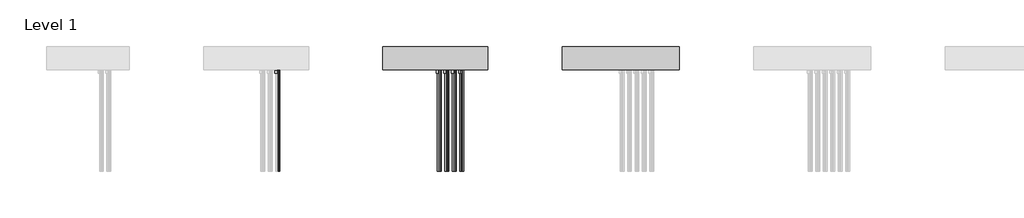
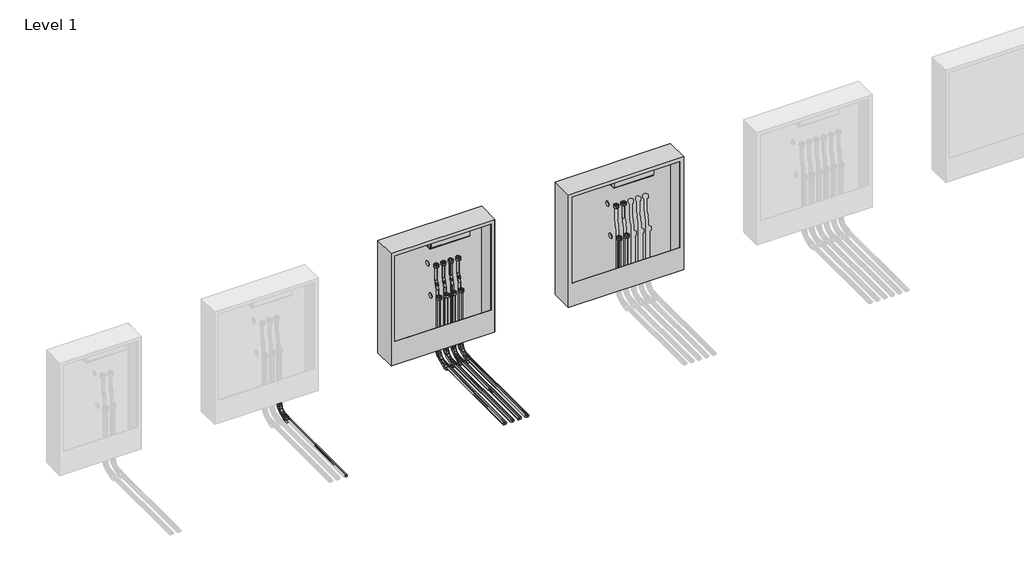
# One storey, part 2 of 15: 40 pipe fittings, 32 pipe segments, 2 proxies, 2 valves.
"""IFC4 building model written with IfcOpenShell, lengths in millimetres."""

from ifc_helpers import new_model, si_unit, point, frame, frame_2d, origin, place, context, project, spatial, circle_curve, trimmed, segment, composite_curve, outline, extrude, transform, mapped, element, save
from components import mechanical_equipment_387b3563, pipe_fitting_b05a7e06, pipe_fitting_27357a6d, pipe_fitting_3e503640, pipe_fitting_daada113, valve_14c71488, valve_a98dd44e

model = new_model("IFC4")

# Units and contexts
model_context = context("Model", 3, world=origin())
ifc_project = project(units=[si_unit("LENGTHUNIT", "METRE", prefix="MILLI")], contexts=[model_context])

# Site, building, storey
site = spatial("IfcSite", under=ifc_project)
building = spatial("IfcBuilding", under=site)
storey = spatial("IfcBuildingStorey", under=building, Name="Level 1", Elevation=0.0)

# Proxies
placement = place(None, origin())
mechanical_equipment_shape = mechanical_equipment_387b3563(model_context)
element("IfcBuildingElementProxy", 1, Name="USYSTEMS_Контроллер UH-6 230В1 : Контроллер UH-6 230В 2", ObjectType="USYSTEMS_Контроллер UH-6 230В1 : Контроллер UH-6 230В 2", at=placement, inside=storey, context=model_context, shape_type="MappedRepresentation", body=[
    mapped(mechanical_equipment_shape, transform((4936.3622855, 3891.9849843, 729.375), x_axis=(1.0, 0.0, 0.0), y_axis=(0.0, 1.0, 0.0), z_axis=(0.0, 0.0, 1.0))),
])
element("IfcBuildingElementProxy", 2, Name="USYSTEMS_Контроллер UH-6 230В1 : Контроллер UH-6 230В 2", ObjectType="USYSTEMS_Контроллер UH-6 230В1 : Контроллер UH-6 230В 2", at=placement, inside=storey, context=model_context, shape_type="MappedRepresentation", body=[
    mapped(mechanical_equipment_shape, transform((6187.3126825, 3892.1486199, 729.375), x_axis=(1.0, 0.0, 0.0), y_axis=(0.0, 1.0, 0.0), z_axis=(0.0, 0.0, 1.0))),
])

# Pipe fittings
pipe_fitting_shape = pipe_fitting_b05a7e06(model_context)
element("IfcPipeFitting", 3, ObjectType="USYSTEMS_УгловойФиксатор_Multi : Угловой фиксатор", at=placement, inside=storey, context=model_context, shape_type="MappedRepresentation", body=[
    mapped(pipe_fitting_shape, transform((3768.5620456, 3819.7252157, -114.3211479), x_axis=(0.0, 0.0, -1.0), y_axis=(0.0, -1.0, 0.0), z_axis=(-1.0, 0.0, 0.0))),
])
element("IfcPipeFitting", 4, ObjectType="USYSTEMS_УгловойФиксатор_Multi : Угловой фиксатор", at=placement, inside=storey, context=model_context, shape_type="MappedRepresentation", body=[
    mapped(pipe_fitting_shape, transform((3778.6478021, 3855.7252157, -114.3211479), x_axis=(0.0, 0.0, -1.0), y_axis=(0.0, -1.0, 0.0), z_axis=(-1.0, 0.0, 0.0))),
])
element("IfcPipeFitting", 5, ObjectType="USYSTEMS_УгловойФиксатор_Multi : Угловой фиксатор", at=placement, inside=storey, context=model_context, shape_type="MappedRepresentation", body=[
    mapped(pipe_fitting_shape, transform((4852.9678224, 3820.0478064, -114.3211479), x_axis=(0.0, 0.0, -1.0), y_axis=(0.0, -1.0, 0.0), z_axis=(-1.0, 0.0, 0.0))),
])
element("IfcPipeFitting", 6, ObjectType="USYSTEMS_УгловойФиксатор_Multi : Угловой фиксатор", at=placement, inside=storey, context=model_context, shape_type="MappedRepresentation", body=[
    mapped(pipe_fitting_shape, transform((4902.9678224, 3820.0478064, -114.3211479), x_axis=(0.0, 0.0, -1.0), y_axis=(0.0, -1.0, 0.0), z_axis=(-1.0, 0.0, 0.0))),
])
element("IfcPipeFitting", 7, ObjectType="USYSTEMS_УгловойФиксатор_Multi : Угловой фиксатор", at=placement, inside=storey, context=model_context, shape_type="MappedRepresentation", body=[
    mapped(pipe_fitting_shape, transform((4863.0535788, 3856.0474843, -114.3211479), x_axis=(0.0, 0.0, -1.0), y_axis=(0.0, -1.0, 0.0), z_axis=(-1.0, 0.0, 0.0))),
])
element("IfcPipeFitting", 8, ObjectType="USYSTEMS_УгловойФиксатор_Multi : Угловой фиксатор", at=placement, inside=storey, context=model_context, shape_type="MappedRepresentation", body=[
    mapped(pipe_fitting_shape, transform((4913.0535788, 3856.0474843, -114.3211479), x_axis=(0.0, 0.0, -1.0), y_axis=(0.0, -1.0, 0.0), z_axis=(-1.0, 0.0, 0.0))),
])
element("IfcPipeFitting", 9, ObjectType="USYSTEMS_УгловойФиксатор_Multi : Угловой фиксатор", at=placement, inside=storey, context=model_context, shape_type="MappedRepresentation", body=[
    mapped(pipe_fitting_shape, transform((4952.9678224, 3820.0478064, -114.3211479), x_axis=(0.0, 0.0, -1.0), y_axis=(0.0, -1.0, 0.0), z_axis=(-1.0, 0.0, 0.0))),
])
element("IfcPipeFitting", 10, ObjectType="USYSTEMS_УгловойФиксатор_Multi : Угловой фиксатор", at=placement, inside=storey, context=model_context, shape_type="MappedRepresentation", body=[
    mapped(pipe_fitting_shape, transform((5002.9678224, 3820.0477843, -114.3211479), x_axis=(0.0, 0.0, -1.0), y_axis=(0.0, -1.0, 0.0), z_axis=(-1.0, 0.0, 0.0))),
])
element("IfcPipeFitting", 11, ObjectType="USYSTEMS_УгловойФиксатор_Multi : Угловой фиксатор", at=placement, inside=storey, context=model_context, shape_type="MappedRepresentation", body=[
    mapped(pipe_fitting_shape, transform((4963.0535788, 3856.0474843, -114.3211479), x_axis=(0.0, 0.0, -1.0), y_axis=(0.0, -1.0, 0.0), z_axis=(-1.0, 0.0, 0.0))),
])
element("IfcPipeFitting", 12, ObjectType="USYSTEMS_УгловойФиксатор_Multi : Угловой фиксатор", at=placement, inside=storey, context=model_context, shape_type="MappedRepresentation", body=[
    mapped(pipe_fitting_shape, transform((5013.0535788, 3856.0478064, -114.3211479), x_axis=(0.0, 0.0, -1.0), y_axis=(0.0, -1.0, 0.0), z_axis=(-1.0, 0.0, 0.0))),
])
pipe_fitting_2_shape = pipe_fitting_27357a6d(model_context)
element("IfcPipeFitting", 13, ObjectType="USYSTEMS_Штуцер с внутренней резьбой_FlexX_PEX : 16x2,0 x 3/4\" ВР Евроконус", at=placement, inside=storey, context=model_context, shape_type="MappedRepresentation", body=[
    mapped(pipe_fitting_2_shape, transform((4902.9678224, 3856.0479445, 538.3084133), x_axis=(0.0, 0.0, 1.0), y_axis=(0.0, 1.0, 0.0), z_axis=(-1.0, 0.0, 0.0))),
])
element("IfcPipeFitting", 14, ObjectType="USYSTEMS_Штуцер с внутренней резьбой_FlexX_PEX : 16x2,0 x 3/4\" ВР Евроконус", at=placement, inside=storey, context=model_context, shape_type="MappedRepresentation", body=[
    mapped(pipe_fitting_2_shape, transform((4902.9678224, 3820.0479445, 328.3084133), x_axis=(0.0, 0.0, 1.0), y_axis=(0.0, 1.0, 0.0), z_axis=(-1.0, 0.0, 0.0))),
])
element("IfcPipeFitting", 15, ObjectType="USYSTEMS_Штуцер с внутренней резьбой_FlexX_PEX : 16x2,0 x 3/4\" ВР Евроконус", at=placement, inside=storey, context=model_context, shape_type="MappedRepresentation", body=[
    mapped(pipe_fitting_2_shape, transform((4852.9678224, 3820.0479445, 328.3084133), x_axis=(0.0, 0.0, 1.0), y_axis=(0.0, 1.0, 0.0), z_axis=(-1.0, 0.0, 0.0))),
])
element("IfcPipeFitting", 16, ObjectType="USYSTEMS_Штуцер с внутренней резьбой_FlexX_PEX : 16x2,0 x 3/4\" ВР Евроконус", at=placement, inside=storey, context=model_context, shape_type="MappedRepresentation", body=[
    mapped(pipe_fitting_2_shape, transform((4852.9678224, 3856.0479445, 538.3084133), x_axis=(0.0, 0.0, 1.0), y_axis=(0.0, 1.0, 0.0), z_axis=(-1.0, 0.0, 0.0))),
])
element("IfcPipeFitting", 17, ObjectType="USYSTEMS_Штуцер с внутренней резьбой_FlexX_PEX : 16x2,0 x 3/4\" ВР Евроконус", at=placement, inside=storey, context=model_context, shape_type="MappedRepresentation", body=[
    mapped(pipe_fitting_2_shape, transform((5002.9678224, 3856.0479445, 538.3084133), x_axis=(0.0, 0.0, 1.0), y_axis=(0.0, 1.0, 0.0), z_axis=(-1.0, 0.0, 0.0))),
])
element("IfcPipeFitting", 18, ObjectType="USYSTEMS_Штуцер с внутренней резьбой_FlexX_PEX : 16x2,0 x 3/4\" ВР Евроконус", at=placement, inside=storey, context=model_context, shape_type="MappedRepresentation", body=[
    mapped(pipe_fitting_2_shape, transform((5002.9678224, 3820.0479445, 328.3084133), x_axis=(0.0, 0.0, 1.0), y_axis=(0.0, 1.0, 0.0), z_axis=(-1.0, 0.0, 0.0))),
])
element("IfcPipeFitting", 19, ObjectType="USYSTEMS_Штуцер с внутренней резьбой_FlexX_PEX : 16x2,0 x 3/4\" ВР Евроконус", at=placement, inside=storey, context=model_context, shape_type="MappedRepresentation", body=[
    mapped(pipe_fitting_2_shape, transform((4952.9678224, 3820.0479445, 328.3084133), x_axis=(0.0, 0.0, 1.0), y_axis=(0.0, 1.0, 0.0), z_axis=(-1.0, 0.0, 0.0))),
])
element("IfcPipeFitting", 20, ObjectType="USYSTEMS_Штуцер с внутренней резьбой_FlexX_PEX : 16x2,0 x 3/4\" ВР Евроконус", at=placement, inside=storey, context=model_context, shape_type="MappedRepresentation", body=[
    mapped(pipe_fitting_2_shape, transform((4952.9678224, 3856.0479445, 538.3084133), x_axis=(0.0, 0.0, 1.0), y_axis=(0.0, 1.0, 0.0), z_axis=(-1.0, 0.0, 0.0))),
])
element("IfcPipeFitting", 21, ObjectType="USYSTEMS_Штуцер с внутренней резьбой_FlexX_PEX : 16x2,0 x 3/4\" ВР Евроконус", at=placement, inside=storey, context=model_context, shape_type="MappedRepresentation", body=[
    mapped(pipe_fitting_2_shape, transform((6128.9182194, 3856.21158, 538.3084133), x_axis=(0.0, 0.0, 1.0), y_axis=(0.0, 1.0, 0.0), z_axis=(-1.0, 0.0, 0.0))),
])
element("IfcPipeFitting", 22, ObjectType="USYSTEMS_Штуцер с внутренней резьбой_FlexX_PEX : 16x2,0 x 3/4\" ВР Евроконус", at=placement, inside=storey, context=model_context, shape_type="MappedRepresentation", body=[
    mapped(pipe_fitting_2_shape, transform((6128.9182194, 3820.21158, 328.3084133), x_axis=(0.0, 0.0, 1.0), y_axis=(0.0, 1.0, 0.0), z_axis=(-1.0, 0.0, 0.0))),
])
element("IfcPipeFitting", 23, ObjectType="USYSTEMS_Штуцер с внутренней резьбой_FlexX_PEX : 16x2,0 x 3/4\" ВР Евроконус", at=placement, inside=storey, context=model_context, shape_type="MappedRepresentation", body=[
    mapped(pipe_fitting_2_shape, transform((6078.9182194, 3820.21158, 328.3084133), x_axis=(0.0, 0.0, 1.0), y_axis=(0.0, 1.0, 0.0), z_axis=(-1.0, 0.0, 0.0))),
])
element("IfcPipeFitting", 24, ObjectType="USYSTEMS_Штуцер с внутренней резьбой_FlexX_PEX : 16x2,0 x 3/4\" ВР Евроконус", at=placement, inside=storey, context=model_context, shape_type="MappedRepresentation", body=[
    mapped(pipe_fitting_2_shape, transform((6078.9182194, 3856.21158, 538.3084133), x_axis=(0.0, 0.0, 1.0), y_axis=(0.0, 1.0, 0.0), z_axis=(-1.0, 0.0, 0.0))),
])
pipe_fitting_3_shape = pipe_fitting_3e503640(model_context)
element("IfcPipeFitting", 25, ObjectType="USYSTEMS_Гнутая труба_Radi Pipe : PN 6 в бухтах_С фиксатором", at=placement, inside=storey, context=model_context, shape_type="MappedRepresentation", body=[
    mapped(pipe_fitting_3_shape, transform((3768.5620456, 3819.7252157, -114.3211479), x_axis=(0.0, 0.0, -1.0), y_axis=(0.0, -1.0, 0.0), z_axis=(-1.0, 0.0, 0.0))),
])
element("IfcPipeFitting", 26, ObjectType="USYSTEMS_Гнутая труба_Radi Pipe : PN 6 в бухтах_С фиксатором", at=placement, inside=storey, context=model_context, shape_type="MappedRepresentation", body=[
    mapped(pipe_fitting_3_shape, transform((3778.6478021, 3855.7252157, -114.3211479), x_axis=(0.0, 0.0, -1.0), y_axis=(0.0, -1.0, 0.0), z_axis=(-1.0, 0.0, 0.0))),
])
pipe_fitting_4_shape = pipe_fitting_daada113(model_context)
element("IfcPipeFitting", 27, ObjectType="USYSTEMS_Гнутая труба_Radi Pipe : PN 6 в бухтах", at=placement, inside=storey, context=model_context, shape_type="MappedRepresentation", body=[
    mapped(pipe_fitting_4_shape, transform((4852.9678224, 3856.0471845, 414.5388211), x_axis=(0.0, 0.0, -1.0), y_axis=(1.0, 0.0, 0.0), z_axis=(0.0, -1.0, 0.0))),
])
element("IfcPipeFitting", 28, ObjectType="USYSTEMS_Гнутая труба_Radi Pipe : PN 6 в бухтах", at=placement, inside=storey, context=model_context, shape_type="MappedRepresentation", body=[
    mapped(pipe_fitting_4_shape, transform((4863.0535788, 3856.0474843, 388.2645272), x_axis=(0.3583679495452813, 0.0, -0.9335804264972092), y_axis=(-0.9335804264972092, 0.0, -0.3583679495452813), z_axis=(0.0, 1.0, 0.0))),
])
element("IfcPipeFitting", 29, ObjectType="USYSTEMS_Гнутая труба_Radi Pipe : PN 6 в бухтах", at=placement, inside=storey, context=model_context, shape_type="MappedRepresentation", body=[
    mapped(pipe_fitting_4_shape, transform((4902.9678224, 3856.0471846, 414.5122189), x_axis=(0.0, 0.0, -1.0), y_axis=(1.0, 0.0, 0.0), z_axis=(0.0, -1.0, 0.0))),
])
element("IfcPipeFitting", 30, ObjectType="USYSTEMS_Гнутая труба_Radi Pipe : PN 6 в бухтах", at=placement, inside=storey, context=model_context, shape_type="MappedRepresentation", body=[
    mapped(pipe_fitting_4_shape, transform((4913.0535788, 3856.0474843, 388.237925), x_axis=(0.3583679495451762, 0.0, -0.9335804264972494), y_axis=(-0.9335804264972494, 0.0, -0.3583679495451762), z_axis=(0.0, 1.0, 0.0))),
])
element("IfcPipeFitting", 31, ObjectType="USYSTEMS_Гнутая труба_Radi Pipe : PN 6 в бухтах", at=placement, inside=storey, context=model_context, shape_type="MappedRepresentation", body=[
    mapped(pipe_fitting_4_shape, transform((4952.9678224, 3856.0471845, 414.5388211), x_axis=(0.0, 0.0, -1.0), y_axis=(1.0, 0.0, 0.0), z_axis=(0.0, -1.0, 0.0))),
])
element("IfcPipeFitting", 32, ObjectType="USYSTEMS_Гнутая труба_Radi Pipe : PN 6 в бухтах", at=placement, inside=storey, context=model_context, shape_type="MappedRepresentation", body=[
    mapped(pipe_fitting_4_shape, transform((4963.0535788, 3856.0474843, 388.2645272), x_axis=(0.3583679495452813, 0.0, -0.9335804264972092), y_axis=(-0.9335804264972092, 0.0, -0.3583679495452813), z_axis=(0.0, 1.0, 0.0))),
])
element("IfcPipeFitting", 33, ObjectType="USYSTEMS_Гнутая труба_Radi Pipe : PN 6 в бухтах", at=placement, inside=storey, context=model_context, shape_type="MappedRepresentation", body=[
    mapped(pipe_fitting_4_shape, transform((5002.9678224, 3856.0477165, 414.5122189), x_axis=(0.0, 0.0, -1.0), y_axis=(1.0, 0.0, 0.0), z_axis=(0.0, -1.0, 0.0))),
])
element("IfcPipeFitting", 34, ObjectType="USYSTEMS_Гнутая труба_Radi Pipe : PN 6 в бухтах", at=placement, inside=storey, context=model_context, shape_type="MappedRepresentation", body=[
    mapped(pipe_fitting_4_shape, transform((5013.0535788, 3856.0478064, 388.237925), x_axis=(0.3583679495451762, 0.0, -0.9335804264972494), y_axis=(-0.9335804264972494, 0.0, -0.3583679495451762), z_axis=(0.0, 1.0, 0.0))),
])
element("IfcPipeFitting", 35, ObjectType="USYSTEMS_Гнутая труба_Radi Pipe : PN 6 в бухтах_С фиксатором", at=placement, inside=storey, context=model_context, shape_type="MappedRepresentation", body=[
    mapped(pipe_fitting_3_shape, transform((4852.9678224, 3820.0478064, -114.3211479), x_axis=(0.0, 0.0, -1.0), y_axis=(0.0, -1.0, 0.0), z_axis=(-1.0, 0.0, 0.0))),
])
element("IfcPipeFitting", 36, ObjectType="USYSTEMS_Гнутая труба_Radi Pipe : PN 6 в бухтах_С фиксатором", at=placement, inside=storey, context=model_context, shape_type="MappedRepresentation", body=[
    mapped(pipe_fitting_3_shape, transform((4902.9678224, 3820.0478064, -114.3211479), x_axis=(0.0, 0.0, -1.0), y_axis=(0.0, -1.0, 0.0), z_axis=(-1.0, 0.0, 0.0))),
])
element("IfcPipeFitting", 37, ObjectType="USYSTEMS_Гнутая труба_Radi Pipe : PN 6 в бухтах_С фиксатором", at=placement, inside=storey, context=model_context, shape_type="MappedRepresentation", body=[
    mapped(pipe_fitting_3_shape, transform((4863.0535788, 3856.0474843, -114.3211479), x_axis=(0.0, 0.0, -1.0), y_axis=(0.0, -1.0, 0.0), z_axis=(-1.0, 0.0, 0.0))),
])
element("IfcPipeFitting", 38, ObjectType="USYSTEMS_Гнутая труба_Radi Pipe : PN 6 в бухтах_С фиксатором", at=placement, inside=storey, context=model_context, shape_type="MappedRepresentation", body=[
    mapped(pipe_fitting_3_shape, transform((4913.0535788, 3856.0474843, -114.3211479), x_axis=(0.0, 0.0, -1.0), y_axis=(0.0, -1.0, 0.0), z_axis=(-1.0, 0.0, 0.0))),
])
element("IfcPipeFitting", 39, ObjectType="USYSTEMS_Гнутая труба_Radi Pipe : PN 6 в бухтах_С фиксатором", at=placement, inside=storey, context=model_context, shape_type="MappedRepresentation", body=[
    mapped(pipe_fitting_3_shape, transform((4952.9678224, 3820.0478064, -114.3211479), x_axis=(0.0, 0.0, -1.0), y_axis=(0.0, -1.0, 0.0), z_axis=(-1.0, 0.0, 0.0))),
])
element("IfcPipeFitting", 40, ObjectType="USYSTEMS_Гнутая труба_Radi Pipe : PN 6 в бухтах_С фиксатором", at=placement, inside=storey, context=model_context, shape_type="MappedRepresentation", body=[
    mapped(pipe_fitting_3_shape, transform((5002.9678224, 3820.0477843, -114.3211479), x_axis=(0.0, 0.0, -1.0), y_axis=(0.0, -1.0, 0.0), z_axis=(-1.0, 0.0, 0.0))),
])
element("IfcPipeFitting", 41, ObjectType="USYSTEMS_Гнутая труба_Radi Pipe : PN 6 в бухтах_С фиксатором", at=placement, inside=storey, context=model_context, shape_type="MappedRepresentation", body=[
    mapped(pipe_fitting_3_shape, transform((4963.0535788, 3856.0474843, -114.3211479), x_axis=(0.0, 0.0, -1.0), y_axis=(0.0, -1.0, 0.0), z_axis=(-1.0, 0.0, 0.0))),
])
element("IfcPipeFitting", 42, ObjectType="USYSTEMS_Гнутая труба_Radi Pipe : PN 6 в бухтах_С фиксатором", at=placement, inside=storey, context=model_context, shape_type="MappedRepresentation", body=[
    mapped(pipe_fitting_3_shape, transform((5013.0535788, 3856.0478064, -114.3211479), x_axis=(0.0, 0.0, -1.0), y_axis=(0.0, -1.0, 0.0), z_axis=(-1.0, 0.0, 0.0))),
])

# Pipe segments
element("IfcPipeSegment", 43, ObjectType="USYSTEMS труба Radi Pipe белая PN6", at=placement, inside=storey, context=model_context, shape_type="SweptSolid", body=[
    extrude(outline(composite_curve([segment(trimmed(circle_curve(frame_2d((-114.3211479, 3778.6478021)), 8.0), [point((-114.3211479, 3770.6478021))], [point((-122.3211479, 3778.6478021))], False, "CARTESIAN"), True, "CONTINUOUS"), segment(trimmed(circle_curve(frame_2d((-114.3211479, 3778.6478021)), 8.0), [point((-122.3211479, 3778.6478021))], [point((-114.3211479, 3786.6478021))], False, "CARTESIAN"), True, "CONTINUOUS"), segment(trimmed(circle_curve(frame_2d((-114.3211479, 3778.6478021)), 8.0), [point((-114.3211479, 3786.6478021))], [point((-106.3211479, 3778.6478021))], False, "CARTESIAN"), True, "CONTINUOUS"), segment(trimmed(circle_curve(frame_2d((-114.3211479, 3778.6478021)), 8.0), [point((-106.3211479, 3778.6478021))], [point((-114.3211479, 3770.6478021))], False, "CARTESIAN"), True, "CONTINUOUS")], self_intersect=False)), frame((0.0, 3054.7207207, 0.0), z_axis=(0.0, 1.0, 0.0), x_axis=(0.0, 0.0, 1.0)), (0.0, 0.0, 1.0), 730.004495),
])
element("IfcPipeSegment", 44, ObjectType="USYSTEMS труба Radi Pipe белая PN6", at=placement, inside=storey, context=model_context, shape_type="SweptSolid", body=[
    extrude(outline(composite_curve([segment(trimmed(circle_curve(frame_2d((0.0, -8.0)), 8.0), [point((-8.0, -8.0))], [point((0.0, 0.0))], False, "CARTESIAN"), True, "CONTINUOUS"), segment(trimmed(circle_curve(frame_2d((0.0, -8.0)), 8.0), [point((0.0, 0.0))], [point((8.0, -8.0))], False, "CARTESIAN"), True, "CONTINUOUS"), segment(trimmed(circle_curve(frame_2d((0.0, -8.0)), 8.0), [point((8.0, -8.0))], [point((0.0, -16.0))], False, "CARTESIAN"), True, "CONTINUOUS"), segment(trimmed(circle_curve(frame_2d((0.0, -8.0)), 8.0), [point((0.0, -16.0))], [point((-8.0, -8.0))], False, "CARTESIAN"), True, "CONTINUOUS")], self_intersect=False)), frame((4852.9678224, 3812.0478064, -43.3211449), z_axis=(0.0, 3.7245021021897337e-07, 0.9999999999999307), x_axis=(-1.0, 0.0, 0.0)), (0.0, 0.0, 1.0), 370.6295612),
])
element("IfcPipeSegment", 45, ObjectType="USYSTEMS труба Radi Pipe белая PN6", at=placement, inside=storey, context=model_context, shape_type="SweptSolid", body=[
    extrude(outline(composite_curve([segment(trimmed(circle_curve(frame_2d((0.0, -8.0)), 8.0), [point((-8.0, -8.0))], [point((0.0, 0.0))], False, "CARTESIAN"), True, "CONTINUOUS"), segment(trimmed(circle_curve(frame_2d((0.0, -8.0)), 8.0), [point((0.0, 0.0))], [point((8.0, -8.0))], False, "CARTESIAN"), True, "CONTINUOUS"), segment(trimmed(circle_curve(frame_2d((0.0, -8.0)), 8.0), [point((8.0, -8.0))], [point((0.0, -16.0))], False, "CARTESIAN"), True, "CONTINUOUS"), segment(trimmed(circle_curve(frame_2d((0.0, -8.0)), 8.0), [point((0.0, -16.0))], [point((-8.0, -8.0))], False, "CARTESIAN"), True, "CONTINUOUS")], self_intersect=False)), frame((4902.9678224, 3812.0478064, -43.3211449), z_axis=(0.0, 3.7245021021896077e-07, 0.9999999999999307), x_axis=(-1.0, 0.0, 0.0)), (0.0, 0.0, 1.0), 370.6295612),
])
element("IfcPipeSegment", 46, ObjectType="USYSTEMS труба Radi Pipe белая PN6", at=placement, inside=storey, context=model_context, shape_type="SweptSolid", body=[
    extrude(outline(composite_curve([segment(trimmed(circle_curve(frame_2d((0.0, -8.0)), 8.0), [point((-8.0, -8.0))], [point((0.0, 0.0))], False, "CARTESIAN"), True, "CONTINUOUS"), segment(trimmed(circle_curve(frame_2d((0.0, -8.0)), 8.0), [point((0.0, 0.0))], [point((8.0, -8.0))], False, "CARTESIAN"), True, "CONTINUOUS"), segment(trimmed(circle_curve(frame_2d((0.0, -8.0)), 8.0), [point((8.0, -8.0))], [point((0.0, -16.0))], False, "CARTESIAN"), True, "CONTINUOUS"), segment(trimmed(circle_curve(frame_2d((0.0, -8.0)), 8.0), [point((0.0, -16.0))], [point((-8.0, -8.0))], False, "CARTESIAN"), True, "CONTINUOUS")], self_intersect=False)), frame((4902.9678224, 3848.0471846, 438.235678), z_axis=(0.0, 7.669400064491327e-06, 0.9999999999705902), x_axis=(-1.0, 0.0, 0.0)), (0.0, 0.0, 1.0), 99.0727967),
])
element("IfcPipeSegment", 47, ObjectType="USYSTEMS труба Radi Pipe белая PN6", at=placement, inside=storey, context=model_context, shape_type="SweptSolid", body=[
    extrude(outline(composite_curve([segment(trimmed(circle_curve(frame_2d((0.0, -8.0)), 8.0), [point((-8.0, -8.0))], [point((0.0, 0.0))], False, "CARTESIAN"), True, "CONTINUOUS"), segment(trimmed(circle_curve(frame_2d((0.0, -8.0)), 8.0), [point((0.0, 0.0))], [point((8.0, -8.0))], False, "CARTESIAN"), True, "CONTINUOUS"), segment(trimmed(circle_curve(frame_2d((0.0, -8.0)), 8.0), [point((8.0, -8.0))], [point((0.0, -16.0))], False, "CARTESIAN"), True, "CONTINUOUS"), segment(trimmed(circle_curve(frame_2d((0.0, -8.0)), 8.0), [point((0.0, -16.0))], [point((-8.0, -8.0))], False, "CARTESIAN"), True, "CONTINUOUS")], self_intersect=False)), frame((4852.9678224, 3848.0471845, 438.2622802), z_axis=(0.0, 7.672802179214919e-06, 0.9999999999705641), x_axis=(-1.0, 0.0, 0.0)), (0.0, 0.0, 1.0), 99.0461944),
])
element("IfcPipeSegment", 48, ObjectType="USYSTEMS труба Radi Pipe белая PN6", at=placement, inside=storey, context=model_context, shape_type="SweptSolid", body=[
    extrude(outline(composite_curve([segment(trimmed(circle_curve(frame_2d((0.0, 8.0)), 8.0), [point((0.0003714, 16.0))], [point((8.0, 7.9996286))], False, "CARTESIAN"), True, "CONTINUOUS"), segment(trimmed(circle_curve(frame_2d((0.0, 8.0)), 8.0), [point((8.0, 7.9996286))], [point((-0.0003715, 0.0))], False, "CARTESIAN"), True, "CONTINUOUS"), segment(trimmed(circle_curve(frame_2d((0.0, 8.0)), 8.0), [point((-0.0003715, 0.0))], [point((-8.0, 8.0003714))], False, "CARTESIAN"), True, "CONTINUOUS"), segment(trimmed(circle_curve(frame_2d((0.0, 8.0)), 8.0), [point((-8.0, 8.0003714))], [point((0.0003714, 16.0))], False, "CARTESIAN"), True, "CONTINUOUS")], self_intersect=False)), frame((4861.4695278, 3848.0471845, 392.3912544), z_axis=(-0.3583679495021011, 1.553238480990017e-05, 0.933580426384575), x_axis=(0.9335804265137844, 5.962323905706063e-06, 0.3583679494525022)), (0.0, 0.0, 1.0), 19.3032171),
])
element("IfcPipeSegment", 49, ObjectType="USYSTEMS труба Radi Pipe белая PN6", at=placement, inside=storey, context=model_context, shape_type="SweptSolid", body=[
    extrude(outline(composite_curve([segment(trimmed(circle_curve(frame_2d((4863.0535788, 3856.0474843)), 8.0), [point((4871.0535788, 3856.0474843))], [point((4863.0535788, 3848.0474843))], False, "CARTESIAN"), True, "CONTINUOUS"), segment(trimmed(circle_curve(frame_2d((4863.0535788, 3856.0474843)), 8.0), [point((4863.0535788, 3848.0474843))], [point((4855.0535788, 3856.0474843))], False, "CARTESIAN"), True, "CONTINUOUS"), segment(trimmed(circle_curve(frame_2d((4863.0535788, 3856.0474843)), 8.0), [point((4855.0535788, 3856.0474843))], [point((4863.0535788, 3864.0474843))], False, "CARTESIAN"), True, "CONTINUOUS"), segment(trimmed(circle_curve(frame_2d((4863.0535788, 3856.0474843)), 8.0), [point((4863.0535788, 3864.0474843))], [point((4871.0535788, 3856.0474843))], False, "CARTESIAN"), True, "CONTINUOUS")], self_intersect=False)), frame((0.0, 0.0, -43.3211479), z_axis=(0.0, 0.0, 1.0), x_axis=(1.0, 0.0, 0.0)), (0.0, 0.0, 1.0), 407.8622774),
])
element("IfcPipeSegment", 50, ObjectType="USYSTEMS труба Radi Pipe белая PN6", at=placement, inside=storey, context=model_context, shape_type="SweptSolid", body=[
    extrude(outline(composite_curve([segment(trimmed(circle_curve(frame_2d((0.0, 8.0)), 8.0), [point((0.0003713, 16.0))], [point((8.0, 7.9996288))], False, "CARTESIAN"), True, "CONTINUOUS"), segment(trimmed(circle_curve(frame_2d((0.0, 8.0)), 8.0), [point((8.0, 7.9996288))], [point((-0.0003712, 0.0))], False, "CARTESIAN"), True, "CONTINUOUS"), segment(trimmed(circle_curve(frame_2d((0.0, 8.0)), 8.0), [point((-0.0003712, 0.0))], [point((-8.0, 8.0003713))], False, "CARTESIAN"), True, "CONTINUOUS"), segment(trimmed(circle_curve(frame_2d((0.0, 8.0)), 8.0), [point((-8.0, 8.0003713))], [point((0.0003713, 16.0))], False, "CARTESIAN"), True, "CONTINUOUS")], self_intersect=False)), frame((4911.4695278, 3848.0471846, 392.3646521), z_axis=(-0.358367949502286, 1.5525497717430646e-05, 0.9335804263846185), x_axis=(0.9335804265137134, 5.959680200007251e-06, 0.3583679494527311)), (0.0, 0.0, 1.0), 19.3032171),
])
element("IfcPipeSegment", 51, ObjectType="USYSTEMS труба Radi Pipe белая PN6", at=placement, inside=storey, context=model_context, shape_type="SweptSolid", body=[
    extrude(outline(composite_curve([segment(trimmed(circle_curve(frame_2d((4913.0535788, 3856.0474843)), 8.0), [point((4921.0535788, 3856.0474843))], [point((4913.0535788, 3848.0474843))], False, "CARTESIAN"), True, "CONTINUOUS"), segment(trimmed(circle_curve(frame_2d((4913.0535788, 3856.0474843)), 8.0), [point((4913.0535788, 3848.0474843))], [point((4905.0535788, 3856.0474843))], False, "CARTESIAN"), True, "CONTINUOUS"), segment(trimmed(circle_curve(frame_2d((4913.0535788, 3856.0474843)), 8.0), [point((4905.0535788, 3856.0474843))], [point((4913.0535788, 3864.0474843))], False, "CARTESIAN"), True, "CONTINUOUS"), segment(trimmed(circle_curve(frame_2d((4913.0535788, 3856.0474843)), 8.0), [point((4913.0535788, 3864.0474843))], [point((4921.0535788, 3856.0474843))], False, "CARTESIAN"), True, "CONTINUOUS")], self_intersect=False)), frame((0.0, 0.0, -43.3211479), z_axis=(0.0, 0.0, 1.0), x_axis=(1.0, 0.0, 0.0)), (0.0, 0.0, 1.0), 407.8356751),
])
element("IfcPipeSegment", 52, ObjectType="USYSTEMS труба Radi Pipe белая PN6", at=placement, inside=storey, context=model_context, shape_type="SweptSolid", body=[
    extrude(outline(composite_curve([segment(trimmed(circle_curve(frame_2d((-114.3211479, 4852.9678224)), 8.0), [point((-114.3211479, 4844.9678224))], [point((-122.3211479, 4852.9678224))], False, "CARTESIAN"), True, "CONTINUOUS"), segment(trimmed(circle_curve(frame_2d((-114.3211479, 4852.9678224)), 8.0), [point((-122.3211479, 4852.9678224))], [point((-114.3211479, 4860.9678224))], False, "CARTESIAN"), True, "CONTINUOUS"), segment(trimmed(circle_curve(frame_2d((-114.3211479, 4852.9678224)), 8.0), [point((-114.3211479, 4860.9678224))], [point((-106.3211479, 4852.9678224))], False, "CARTESIAN"), True, "CONTINUOUS"), segment(trimmed(circle_curve(frame_2d((-114.3211479, 4852.9678224)), 8.0), [point((-106.3211479, 4852.9678224))], [point((-114.3211479, 4844.9678224))], False, "CARTESIAN"), True, "CONTINUOUS")], self_intersect=False)), frame((0.0, 3054.7207207, 0.0), z_axis=(0.0, 1.0, 0.0), x_axis=(0.0, 0.0, 1.0)), (0.0, 0.0, 1.0), 694.3270857),
])
element("IfcPipeSegment", 53, ObjectType="USYSTEMS труба Radi Pipe белая PN6", at=placement, inside=storey, context=model_context, shape_type="SweptSolid", body=[
    extrude(outline(composite_curve([segment(trimmed(circle_curve(frame_2d((-114.3211479, 4902.9678224)), 8.0), [point((-114.3211479, 4894.9678224))], [point((-122.3211479, 4902.9678224))], False, "CARTESIAN"), True, "CONTINUOUS"), segment(trimmed(circle_curve(frame_2d((-114.3211479, 4902.9678224)), 8.0), [point((-122.3211479, 4902.9678224))], [point((-114.3211479, 4910.9678224))], False, "CARTESIAN"), True, "CONTINUOUS"), segment(trimmed(circle_curve(frame_2d((-114.3211479, 4902.9678224)), 8.0), [point((-114.3211479, 4910.9678224))], [point((-106.3211479, 4902.9678224))], False, "CARTESIAN"), True, "CONTINUOUS"), segment(trimmed(circle_curve(frame_2d((-114.3211479, 4902.9678224)), 8.0), [point((-106.3211479, 4902.9678224))], [point((-114.3211479, 4894.9678224))], False, "CARTESIAN"), True, "CONTINUOUS")], self_intersect=False)), frame((0.0, 3054.7207207, 0.0), z_axis=(0.0, 1.0, 0.0), x_axis=(0.0, 0.0, 1.0)), (0.0, 0.0, 1.0), 694.3270857),
])
element("IfcPipeSegment", 54, ObjectType="USYSTEMS труба Radi Pipe белая PN6", at=placement, inside=storey, context=model_context, shape_type="SweptSolid", body=[
    extrude(outline(composite_curve([segment(trimmed(circle_curve(frame_2d((-114.3211479, 4863.0535788)), 8.0), [point((-114.3211479, 4855.0535788))], [point((-122.3211479, 4863.0535788))], False, "CARTESIAN"), True, "CONTINUOUS"), segment(trimmed(circle_curve(frame_2d((-114.3211479, 4863.0535788)), 8.0), [point((-122.3211479, 4863.0535788))], [point((-114.3211479, 4871.0535788))], False, "CARTESIAN"), True, "CONTINUOUS"), segment(trimmed(circle_curve(frame_2d((-114.3211479, 4863.0535788)), 8.0), [point((-114.3211479, 4871.0535788))], [point((-106.3211479, 4863.0535788))], False, "CARTESIAN"), True, "CONTINUOUS"), segment(trimmed(circle_curve(frame_2d((-114.3211479, 4863.0535788)), 8.0), [point((-106.3211479, 4863.0535788))], [point((-114.3211479, 4855.0535788))], False, "CARTESIAN"), True, "CONTINUOUS")], self_intersect=False)), frame((0.0, 3054.7207207, 0.0), z_axis=(0.0, 1.0, 0.0), x_axis=(0.0, 0.0, 1.0)), (0.0, 0.0, 1.0), 730.3267636),
])
element("IfcPipeSegment", 55, ObjectType="USYSTEMS труба Radi Pipe белая PN6", at=placement, inside=storey, context=model_context, shape_type="SweptSolid", body=[
    extrude(outline(composite_curve([segment(trimmed(circle_curve(frame_2d((-114.3211479, 4913.0535788)), 8.0), [point((-114.3211479, 4905.0535788))], [point((-122.3211479, 4913.0535788))], False, "CARTESIAN"), True, "CONTINUOUS"), segment(trimmed(circle_curve(frame_2d((-114.3211479, 4913.0535788)), 8.0), [point((-122.3211479, 4913.0535788))], [point((-114.3211479, 4921.0535788))], False, "CARTESIAN"), True, "CONTINUOUS"), segment(trimmed(circle_curve(frame_2d((-114.3211479, 4913.0535788)), 8.0), [point((-114.3211479, 4921.0535788))], [point((-106.3211479, 4913.0535788))], False, "CARTESIAN"), True, "CONTINUOUS"), segment(trimmed(circle_curve(frame_2d((-114.3211479, 4913.0535788)), 8.0), [point((-106.3211479, 4913.0535788))], [point((-114.3211479, 4905.0535788))], False, "CARTESIAN"), True, "CONTINUOUS")], self_intersect=False)), frame((0.0, 3054.7207207, 0.0), z_axis=(0.0, 1.0, 0.0), x_axis=(0.0, 0.0, 1.0)), (0.0, 0.0, 1.0), 730.3267636),
])
element("IfcPipeSegment", 56, ObjectType="USYSTEMS труба Radi Pipe белая PN6", at=placement, inside=storey, context=model_context, shape_type="SweptSolid", body=[
    extrude(outline(composite_curve([segment(trimmed(circle_curve(frame_2d((0.0, -8.0)), 8.0), [point((-8.0, -8.0))], [point((0.0, 0.0))], False, "CARTESIAN"), True, "CONTINUOUS"), segment(trimmed(circle_curve(frame_2d((0.0, -8.0)), 8.0), [point((0.0, 0.0))], [point((8.0, -8.0))], False, "CARTESIAN"), True, "CONTINUOUS"), segment(trimmed(circle_curve(frame_2d((0.0, -8.0)), 8.0), [point((8.0, -8.0))], [point((0.0, -16.0))], False, "CARTESIAN"), True, "CONTINUOUS"), segment(trimmed(circle_curve(frame_2d((0.0, -8.0)), 8.0), [point((0.0, -16.0))], [point((-8.0, -8.0))], False, "CARTESIAN"), True, "CONTINUOUS")], self_intersect=False)), frame((4952.9678224, 3812.0478064, -43.3211449), z_axis=(0.0, 3.724502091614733e-07, 0.9999999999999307), x_axis=(-1.0, 0.0, 0.0)), (0.0, 0.0, 1.0), 370.6295612),
])
element("IfcPipeSegment", 57, ObjectType="USYSTEMS труба Radi Pipe белая PN6", at=placement, inside=storey, context=model_context, shape_type="SweptSolid", body=[
    extrude(outline(composite_curve([segment(trimmed(circle_curve(frame_2d((0.0, -8.0)), 8.0), [point((-8.0, -8.0))], [point((0.0, 0.0))], False, "CARTESIAN"), True, "CONTINUOUS"), segment(trimmed(circle_curve(frame_2d((0.0, -8.0)), 8.0), [point((0.0, 0.0))], [point((8.0, -8.0))], False, "CARTESIAN"), True, "CONTINUOUS"), segment(trimmed(circle_curve(frame_2d((0.0, -8.0)), 8.0), [point((8.0, -8.0))], [point((0.0, -16.0))], False, "CARTESIAN"), True, "CONTINUOUS"), segment(trimmed(circle_curve(frame_2d((0.0, -8.0)), 8.0), [point((0.0, -16.0))], [point((-8.0, -8.0))], False, "CARTESIAN"), True, "CONTINUOUS")], self_intersect=False)), frame((5002.9678224, 3812.0477843, -43.3211444), z_axis=(0.0, 4.320582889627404e-07, 0.9999999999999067), x_axis=(-1.0, 0.0, 0.0)), (0.0, 0.0, 1.0), 370.6295612),
])
element("IfcPipeSegment", 58, ObjectType="USYSTEMS труба Radi Pipe белая PN6", at=placement, inside=storey, context=model_context, shape_type="SweptSolid", body=[
    extrude(outline(composite_curve([segment(trimmed(circle_curve(frame_2d((0.0, -8.0)), 8.0), [point((-8.0, -8.0))], [point((0.0, 0.0))], False, "CARTESIAN"), True, "CONTINUOUS"), segment(trimmed(circle_curve(frame_2d((0.0, -8.0)), 8.0), [point((0.0, 0.0))], [point((8.0, -8.0))], False, "CARTESIAN"), True, "CONTINUOUS"), segment(trimmed(circle_curve(frame_2d((0.0, -8.0)), 8.0), [point((8.0, -8.0))], [point((0.0, -16.0))], False, "CARTESIAN"), True, "CONTINUOUS"), segment(trimmed(circle_curve(frame_2d((0.0, -8.0)), 8.0), [point((0.0, -16.0))], [point((-8.0, -8.0))], False, "CARTESIAN"), True, "CONTINUOUS")], self_intersect=False)), frame((5002.9678224, 3848.0477165, 438.235635), z_axis=(0.0, 2.3008200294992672e-06, 0.9999999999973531), x_axis=(-1.0, 0.0, 0.0)), (0.0, 0.0, 1.0), 99.0727967),
])
element("IfcPipeSegment", 59, ObjectType="USYSTEMS труба Radi Pipe белая PN6", at=placement, inside=storey, context=model_context, shape_type="SweptSolid", body=[
    extrude(outline(composite_curve([segment(trimmed(circle_curve(frame_2d((0.0, -8.0)), 8.0), [point((-8.0, -8.0))], [point((0.0, 0.0))], False, "CARTESIAN"), True, "CONTINUOUS"), segment(trimmed(circle_curve(frame_2d((0.0, -8.0)), 8.0), [point((0.0, 0.0))], [point((8.0, -8.0))], False, "CARTESIAN"), True, "CONTINUOUS"), segment(trimmed(circle_curve(frame_2d((0.0, -8.0)), 8.0), [point((8.0, -8.0))], [point((0.0, -16.0))], False, "CARTESIAN"), True, "CONTINUOUS"), segment(trimmed(circle_curve(frame_2d((0.0, -8.0)), 8.0), [point((0.0, -16.0))], [point((-8.0, -8.0))], False, "CARTESIAN"), True, "CONTINUOUS")], self_intersect=False)), frame((4952.9678224, 3848.0471845, 438.2622802), z_axis=(0.0, 7.672802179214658e-06, 0.9999999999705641), x_axis=(-1.0, 0.0, 0.0)), (0.0, 0.0, 1.0), 99.0461944),
])
element("IfcPipeSegment", 60, ObjectType="USYSTEMS труба Radi Pipe белая PN6", at=placement, inside=storey, context=model_context, shape_type="SweptSolid", body=[
    extrude(outline(composite_curve([segment(trimmed(circle_curve(frame_2d((0.0, 8.0)), 8.0), [point((0.0003714, 16.0))], [point((8.0, 7.9996286))], False, "CARTESIAN"), True, "CONTINUOUS"), segment(trimmed(circle_curve(frame_2d((0.0, 8.0)), 8.0), [point((8.0, 7.9996286))], [point((-0.0003715, 0.0))], False, "CARTESIAN"), True, "CONTINUOUS"), segment(trimmed(circle_curve(frame_2d((0.0, 8.0)), 8.0), [point((-0.0003715, 0.0))], [point((-8.0, 8.0003714))], False, "CARTESIAN"), True, "CONTINUOUS"), segment(trimmed(circle_curve(frame_2d((0.0, 8.0)), 8.0), [point((-8.0, 8.0003714))], [point((0.0003714, 16.0))], False, "CARTESIAN"), True, "CONTINUOUS")], self_intersect=False)), frame((4961.4695278, 3848.0471845, 392.3912544), z_axis=(-0.3583679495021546, 1.5532384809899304e-05, 0.9335804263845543), x_axis=(0.9335804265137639, 5.962323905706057e-06, 0.3583679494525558)), (0.0, 0.0, 1.0), 19.3032171),
])
element("IfcPipeSegment", 61, ObjectType="USYSTEMS труба Radi Pipe белая PN6", at=placement, inside=storey, context=model_context, shape_type="SweptSolid", body=[
    extrude(outline(composite_curve([segment(trimmed(circle_curve(frame_2d((4963.0535788, 3856.0474843)), 8.0), [point((4971.0535788, 3856.0474843))], [point((4963.0535788, 3848.0474843))], False, "CARTESIAN"), True, "CONTINUOUS"), segment(trimmed(circle_curve(frame_2d((4963.0535788, 3856.0474843)), 8.0), [point((4963.0535788, 3848.0474843))], [point((4955.0535788, 3856.0474843))], False, "CARTESIAN"), True, "CONTINUOUS"), segment(trimmed(circle_curve(frame_2d((4963.0535788, 3856.0474843)), 8.0), [point((4955.0535788, 3856.0474843))], [point((4963.0535788, 3864.0474843))], False, "CARTESIAN"), True, "CONTINUOUS"), segment(trimmed(circle_curve(frame_2d((4963.0535788, 3856.0474843)), 8.0), [point((4963.0535788, 3864.0474843))], [point((4971.0535788, 3856.0474843))], False, "CARTESIAN"), True, "CONTINUOUS")], self_intersect=False)), frame((0.0, 0.0, -43.3211479), z_axis=(0.0, 0.0, 1.0), x_axis=(1.0, 0.0, 0.0)), (0.0, 0.0, 1.0), 407.8622774),
])
element("IfcPipeSegment", 62, ObjectType="USYSTEMS труба Radi Pipe белая PN6", at=placement, inside=storey, context=model_context, shape_type="SweptSolid", body=[
    extrude(outline(composite_curve([segment(trimmed(circle_curve(frame_2d((0.0, 8.0)), 8.0), [point((0.0001114, 16.0))], [point((8.0, 7.9998886))], False, "CARTESIAN"), True, "CONTINUOUS"), segment(trimmed(circle_curve(frame_2d((0.0, 8.0)), 8.0), [point((8.0, 7.9998886))], [point((-0.0001114, 0.0))], False, "CARTESIAN"), True, "CONTINUOUS"), segment(trimmed(circle_curve(frame_2d((0.0, 8.0)), 8.0), [point((-0.0001114, 0.0))], [point((-8.0, 8.0001114))], False, "CARTESIAN"), True, "CONTINUOUS"), segment(trimmed(circle_curve(frame_2d((0.0, 8.0)), 8.0), [point((-8.0, 8.0001114))], [point((0.0001114, 16.0))], False, "CARTESIAN"), True, "CONTINUOUS")], self_intersect=False)), frame((5011.4695278, 3848.0477165, 392.364559), z_axis=(-0.35836794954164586, 4.657649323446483e-06, 0.9335804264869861), x_axis=(0.9335804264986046, 1.7879040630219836e-06, 0.3583679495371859)), (0.0, 0.0, 1.0), 19.3032171),
])
element("IfcPipeSegment", 63, ObjectType="USYSTEMS труба Radi Pipe белая PN6", at=placement, inside=storey, context=model_context, shape_type="SweptSolid", body=[
    extrude(outline(composite_curve([segment(trimmed(circle_curve(frame_2d((5013.0535788, 3856.0478064)), 8.0), [point((5021.0535788, 3856.0478064))], [point((5013.0535788, 3848.0478064))], False, "CARTESIAN"), True, "CONTINUOUS"), segment(trimmed(circle_curve(frame_2d((5013.0535788, 3856.0478064)), 8.0), [point((5013.0535788, 3848.0478064))], [point((5005.0535788, 3856.0478064))], False, "CARTESIAN"), True, "CONTINUOUS"), segment(trimmed(circle_curve(frame_2d((5013.0535788, 3856.0478064)), 8.0), [point((5005.0535788, 3856.0478064))], [point((5013.0535788, 3864.0478064))], False, "CARTESIAN"), True, "CONTINUOUS"), segment(trimmed(circle_curve(frame_2d((5013.0535788, 3856.0478064)), 8.0), [point((5013.0535788, 3864.0478064))], [point((5021.0535788, 3856.0478064))], False, "CARTESIAN"), True, "CONTINUOUS")], self_intersect=False)), frame((0.0, 0.0, -43.3211479), z_axis=(0.0, 0.0, 1.0), x_axis=(1.0, 0.0, 0.0)), (0.0, 0.0, 1.0), 407.8356751),
])
element("IfcPipeSegment", 64, ObjectType="USYSTEMS труба Radi Pipe белая PN6", at=placement, inside=storey, context=model_context, shape_type="SweptSolid", body=[
    extrude(outline(composite_curve([segment(trimmed(circle_curve(frame_2d((-114.3211479, 4952.9678224)), 8.0), [point((-114.3211479, 4944.9678224))], [point((-122.3211479, 4952.9678224))], False, "CARTESIAN"), True, "CONTINUOUS"), segment(trimmed(circle_curve(frame_2d((-114.3211479, 4952.9678224)), 8.0), [point((-122.3211479, 4952.9678224))], [point((-114.3211479, 4960.9678224))], False, "CARTESIAN"), True, "CONTINUOUS"), segment(trimmed(circle_curve(frame_2d((-114.3211479, 4952.9678224)), 8.0), [point((-114.3211479, 4960.9678224))], [point((-106.3211479, 4952.9678224))], False, "CARTESIAN"), True, "CONTINUOUS"), segment(trimmed(circle_curve(frame_2d((-114.3211479, 4952.9678224)), 8.0), [point((-106.3211479, 4952.9678224))], [point((-114.3211479, 4944.9678224))], False, "CARTESIAN"), True, "CONTINUOUS")], self_intersect=False)), frame((0.0, 3054.7207207, 0.0), z_axis=(0.0, 1.0, 0.0), x_axis=(0.0, 0.0, 1.0)), (0.0, 0.0, 1.0), 694.3270857),
])
element("IfcPipeSegment", 65, ObjectType="USYSTEMS труба Radi Pipe белая PN6", at=placement, inside=storey, context=model_context, shape_type="SweptSolid", body=[
    extrude(outline(composite_curve([segment(trimmed(circle_curve(frame_2d((-114.3211479, 5002.9678224)), 8.0), [point((-114.3211479, 4994.9678224))], [point((-122.3211479, 5002.9678224))], False, "CARTESIAN"), True, "CONTINUOUS"), segment(trimmed(circle_curve(frame_2d((-114.3211479, 5002.9678224)), 8.0), [point((-122.3211479, 5002.9678224))], [point((-114.3211479, 5010.9678224))], False, "CARTESIAN"), True, "CONTINUOUS"), segment(trimmed(circle_curve(frame_2d((-114.3211479, 5002.9678224)), 8.0), [point((-114.3211479, 5010.9678224))], [point((-106.3211479, 5002.9678224))], False, "CARTESIAN"), True, "CONTINUOUS"), segment(trimmed(circle_curve(frame_2d((-114.3211479, 5002.9678224)), 8.0), [point((-106.3211479, 5002.9678224))], [point((-114.3211479, 4994.9678224))], False, "CARTESIAN"), True, "CONTINUOUS")], self_intersect=False)), frame((0.0, 3054.7207207, 0.0), z_axis=(0.0, 1.0, 0.0), x_axis=(0.0, 0.0, 1.0)), (0.0, 0.0, 1.0), 694.3270636),
])
element("IfcPipeSegment", 66, ObjectType="USYSTEMS труба Radi Pipe белая PN6", at=placement, inside=storey, context=model_context, shape_type="SweptSolid", body=[
    extrude(outline(composite_curve([segment(trimmed(circle_curve(frame_2d((-114.3211479, 4963.0535788)), 8.0), [point((-114.3211479, 4955.0535788))], [point((-122.3211479, 4963.0535788))], False, "CARTESIAN"), True, "CONTINUOUS"), segment(trimmed(circle_curve(frame_2d((-114.3211479, 4963.0535788)), 8.0), [point((-122.3211479, 4963.0535788))], [point((-114.3211479, 4971.0535788))], False, "CARTESIAN"), True, "CONTINUOUS"), segment(trimmed(circle_curve(frame_2d((-114.3211479, 4963.0535788)), 8.0), [point((-114.3211479, 4971.0535788))], [point((-106.3211479, 4963.0535788))], False, "CARTESIAN"), True, "CONTINUOUS"), segment(trimmed(circle_curve(frame_2d((-114.3211479, 4963.0535788)), 8.0), [point((-106.3211479, 4963.0535788))], [point((-114.3211479, 4955.0535788))], False, "CARTESIAN"), True, "CONTINUOUS")], self_intersect=False)), frame((0.0, 3054.7207207, 0.0), z_axis=(0.0, 1.0, 0.0), x_axis=(0.0, 0.0, 1.0)), (0.0, 0.0, 1.0), 730.3267636),
])
element("IfcPipeSegment", 67, ObjectType="USYSTEMS труба Radi Pipe белая PN6", at=placement, inside=storey, context=model_context, shape_type="SweptSolid", body=[
    extrude(outline(composite_curve([segment(trimmed(circle_curve(frame_2d((-114.3211479, 5013.0535788)), 8.0), [point((-114.3211479, 5005.0535788))], [point((-122.3211479, 5013.0535788))], False, "CARTESIAN"), True, "CONTINUOUS"), segment(trimmed(circle_curve(frame_2d((-114.3211479, 5013.0535788)), 8.0), [point((-122.3211479, 5013.0535788))], [point((-114.3211479, 5021.0535788))], False, "CARTESIAN"), True, "CONTINUOUS"), segment(trimmed(circle_curve(frame_2d((-114.3211479, 5013.0535788)), 8.0), [point((-114.3211479, 5021.0535788))], [point((-106.3211479, 5013.0535788))], False, "CARTESIAN"), True, "CONTINUOUS"), segment(trimmed(circle_curve(frame_2d((-114.3211479, 5013.0535788)), 8.0), [point((-106.3211479, 5013.0535788))], [point((-114.3211479, 5005.0535788))], False, "CARTESIAN"), True, "CONTINUOUS")], self_intersect=False)), frame((0.0, 3054.7207207, 0.0), z_axis=(0.0, 1.0, 0.0), x_axis=(0.0, 0.0, 1.0)), (0.0, 0.0, 1.0), 730.3270857),
])
element("IfcPipeSegment", 68, ObjectType="USYSTEMS труба Radi Pipe белая PN6", at=placement, inside=storey, context=model_context, shape_type="SweptSolid", body=[
    extrude(outline(composite_curve([segment(trimmed(circle_curve(frame_2d((0.0, -8.0)), 8.0), [point((-8.0, -8.0))], [point((0.0, 0.0))], False, "CARTESIAN"), True, "CONTINUOUS"), segment(trimmed(circle_curve(frame_2d((0.0, -8.0)), 8.0), [point((0.0, 0.0))], [point((8.0, -8.0))], False, "CARTESIAN"), True, "CONTINUOUS"), segment(trimmed(circle_curve(frame_2d((0.0, -8.0)), 8.0), [point((8.0, -8.0))], [point((0.0, -16.0))], False, "CARTESIAN"), True, "CONTINUOUS"), segment(trimmed(circle_curve(frame_2d((0.0, -8.0)), 8.0), [point((0.0, -16.0))], [point((-8.0, -8.0))], False, "CARTESIAN"), True, "CONTINUOUS")], self_intersect=False)), frame((6078.9182194, 3812.2111199, -43.321138), z_axis=(0.0, 1.241500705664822e-06, 0.9999999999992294), x_axis=(-1.0, 0.0, 0.0)), (0.0, 0.0, 1.0), 370.6295612),
])
element("IfcPipeSegment", 69, ObjectType="USYSTEMS труба Radi Pipe белая PN6", at=placement, inside=storey, context=model_context, shape_type="SweptSolid", body=[
    extrude(outline(composite_curve([segment(trimmed(circle_curve(frame_2d((0.0, -8.0)), 8.0), [point((-8.0, -8.0))], [point((0.0, 0.0))], False, "CARTESIAN"), True, "CONTINUOUS"), segment(trimmed(circle_curve(frame_2d((0.0, -8.0)), 8.0), [point((0.0, 0.0))], [point((8.0, -8.0))], False, "CARTESIAN"), True, "CONTINUOUS"), segment(trimmed(circle_curve(frame_2d((0.0, -8.0)), 8.0), [point((8.0, -8.0))], [point((0.0, -16.0))], False, "CARTESIAN"), True, "CONTINUOUS"), segment(trimmed(circle_curve(frame_2d((0.0, -8.0)), 8.0), [point((0.0, -16.0))], [point((-8.0, -8.0))], False, "CARTESIAN"), True, "CONTINUOUS")], self_intersect=False)), frame((6128.9182194, 3812.2111199, -43.321138), z_axis=(0.0, 1.241500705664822e-06, 0.9999999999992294), x_axis=(-1.0, 0.0, 0.0)), (0.0, 0.0, 1.0), 370.6295612),
])
element("IfcPipeSegment", 70, ObjectType="USYSTEMS труба Radi Pipe белая PN6", at=placement, inside=storey, context=model_context, shape_type="SweptSolid", body=[
    extrude(outline(composite_curve([segment(trimmed(circle_curve(frame_2d((0.0, -8.0)), 8.0), [point((-8.0, -8.0))], [point((0.0, 0.0))], False, "CARTESIAN"), True, "CONTINUOUS"), segment(trimmed(circle_curve(frame_2d((0.0, -8.0)), 8.0), [point((0.0, 0.0))], [point((8.0, -8.0))], False, "CARTESIAN"), True, "CONTINUOUS"), segment(trimmed(circle_curve(frame_2d((0.0, -8.0)), 8.0), [point((8.0, -8.0))], [point((0.0, -16.0))], False, "CARTESIAN"), True, "CONTINUOUS"), segment(trimmed(circle_curve(frame_2d((0.0, -8.0)), 8.0), [point((0.0, -16.0))], [point((-8.0, -8.0))], False, "CARTESIAN"), True, "CONTINUOUS")], self_intersect=False)), frame((6128.9182194, 3848.2108202, 438.235678), z_axis=(0.0, 7.669400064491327e-06, 0.9999999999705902), x_axis=(-1.0, 0.0, 0.0)), (0.0, 0.0, 1.0), 99.0727967),
])
element("IfcPipeSegment", 71, ObjectType="Default", at=placement, inside=storey, context=model_context, shape_type="SweptSolid", body=[
    extrude(outline(composite_curve([segment(trimmed(circle_curve(frame_2d((3856.0479445, 575.3084133)), 16.7005), [point((3839.3474445, 575.3084133))], [point((3856.0479445, 592.0089133))], False, "CARTESIAN"), True, "CONTINUOUS"), segment(trimmed(circle_curve(frame_2d((3856.0479445, 575.3084133)), 16.7005), [point((3856.0479445, 592.0089133))], [point((3872.7484445, 575.3084133))], False, "CARTESIAN"), True, "CONTINUOUS"), segment(trimmed(circle_curve(frame_2d((3856.0479445, 575.3084133)), 16.7005), [point((3872.7484445, 575.3084133))], [point((3856.0479445, 558.6079133))], False, "CARTESIAN"), True, "CONTINUOUS"), segment(trimmed(circle_curve(frame_2d((3856.0479445, 575.3084133)), 16.7005), [point((3856.0479445, 558.6079133))], [point((3839.3474445, 575.3084133))], False, "CARTESIAN"), True, "CONTINUOUS")], self_intersect=False)), frame((4792.1184142, 0.0, 0.0), z_axis=(1.0, 0.0, 0.0), x_axis=(0.0, 1.0, 0.0)), (0.0, 0.0, 1.0), 3.2494082),
])
element("IfcPipeSegment", 72, ObjectType="Default", at=placement, inside=storey, context=model_context, shape_type="SweptSolid", body=[
    extrude(outline(composite_curve([segment(trimmed(circle_curve(frame_2d((3820.0479445, 365.3084133)), 16.7005), [point((3803.3474445, 365.3084133))], [point((3820.0479445, 382.0089133))], False, "CARTESIAN"), True, "CONTINUOUS"), segment(trimmed(circle_curve(frame_2d((3820.0479445, 365.3084133)), 16.7005), [point((3820.0479445, 382.0089133))], [point((3836.7484445, 365.3084133))], False, "CARTESIAN"), True, "CONTINUOUS"), segment(trimmed(circle_curve(frame_2d((3820.0479445, 365.3084133)), 16.7005), [point((3836.7484445, 365.3084133))], [point((3820.0479445, 348.6079133))], False, "CARTESIAN"), True, "CONTINUOUS"), segment(trimmed(circle_curve(frame_2d((3820.0479445, 365.3084133)), 16.7005), [point((3820.0479445, 348.6079133))], [point((3803.3474445, 365.3084133))], False, "CARTESIAN"), True, "CONTINUOUS")], self_intersect=False)), frame((4791.8942842, 0.0, 0.0), z_axis=(1.0, 0.0, 0.0), x_axis=(0.0, 1.0, 0.0)), (0.0, 0.0, 1.0), 3.4735381),
])
element("IfcPipeSegment", 73, ObjectType="Default", at=placement, inside=storey, context=model_context, shape_type="SweptSolid", body=[
    extrude(outline(composite_curve([segment(trimmed(circle_curve(frame_2d((3856.21158, 575.3084133)), 16.7005), [point((3839.51108, 575.3084133))], [point((3856.21158, 592.0089133))], False, "CARTESIAN"), True, "CONTINUOUS"), segment(trimmed(circle_curve(frame_2d((3856.21158, 575.3084133)), 16.7005), [point((3856.21158, 592.0089133))], [point((3872.91208, 575.3084133))], False, "CARTESIAN"), True, "CONTINUOUS"), segment(trimmed(circle_curve(frame_2d((3856.21158, 575.3084133)), 16.7005), [point((3872.91208, 575.3084133))], [point((3856.21158, 558.6079133))], False, "CARTESIAN"), True, "CONTINUOUS"), segment(trimmed(circle_curve(frame_2d((3856.21158, 575.3084133)), 16.7005), [point((3856.21158, 558.6079133))], [point((3839.51108, 575.3084133))], False, "CARTESIAN"), True, "CONTINUOUS")], self_intersect=False)), frame((6018.0688113, 0.0, 0.0), z_axis=(1.0, 0.0, 0.0), x_axis=(0.0, 1.0, 0.0)), (0.0, 0.0, 1.0), 3.2494082),
])
element("IfcPipeSegment", 74, ObjectType="Default", at=placement, inside=storey, context=model_context, shape_type="SweptSolid", body=[
    extrude(outline(composite_curve([segment(trimmed(circle_curve(frame_2d((3820.21158, 365.3084133)), 16.7005), [point((3803.51108, 365.3084133))], [point((3820.21158, 382.0089133))], False, "CARTESIAN"), True, "CONTINUOUS"), segment(trimmed(circle_curve(frame_2d((3820.21158, 365.3084133)), 16.7005), [point((3820.21158, 382.0089133))], [point((3836.91208, 365.3084133))], False, "CARTESIAN"), True, "CONTINUOUS"), segment(trimmed(circle_curve(frame_2d((3820.21158, 365.3084133)), 16.7005), [point((3836.91208, 365.3084133))], [point((3820.21158, 348.6079133))], False, "CARTESIAN"), True, "CONTINUOUS"), segment(trimmed(circle_curve(frame_2d((3820.21158, 365.3084133)), 16.7005), [point((3820.21158, 348.6079133))], [point((3803.51108, 365.3084133))], False, "CARTESIAN"), True, "CONTINUOUS")], self_intersect=False)), frame((6017.8446813, 0.0, 0.0), z_axis=(1.0, 0.0, 0.0), x_axis=(0.0, 1.0, 0.0)), (0.0, 0.0, 1.0), 3.4735381),
])

# Valves
valve_shape = valve_14c71488(model_context)
element("IfcValve", 75, ObjectType="USYSTEMS_Коллекторный шкаф_Накладной : 705x160 мм", at=placement, inside=storey, context=model_context, shape_type="MappedRepresentation", body=[
    mapped(valve_shape, transform((4830.465146, 3891.6487877, 423.1788521), x_axis=(1.0, 0.0, 0.0), y_axis=(0.0, 0.0, 1.0), z_axis=(0.0, -1.0, 0.0))),
])
valve_2_shape = valve_a98dd44e(model_context)
element("IfcValve", 76, ObjectType="USYSTEMS_Коллекторный шкаф_Накладной : 785x160 мм", at=placement, inside=storey, context=model_context, shape_type="MappedRepresentation", body=[
    mapped(valve_2_shape, transform((6076.4155431, 3891.6487877, 423.1788521), x_axis=(1.0, 0.0, 0.0), y_axis=(0.0, 0.0, 1.0), z_axis=(0.0, -1.0, 0.0))),
])

save(model, "model.ifc")
